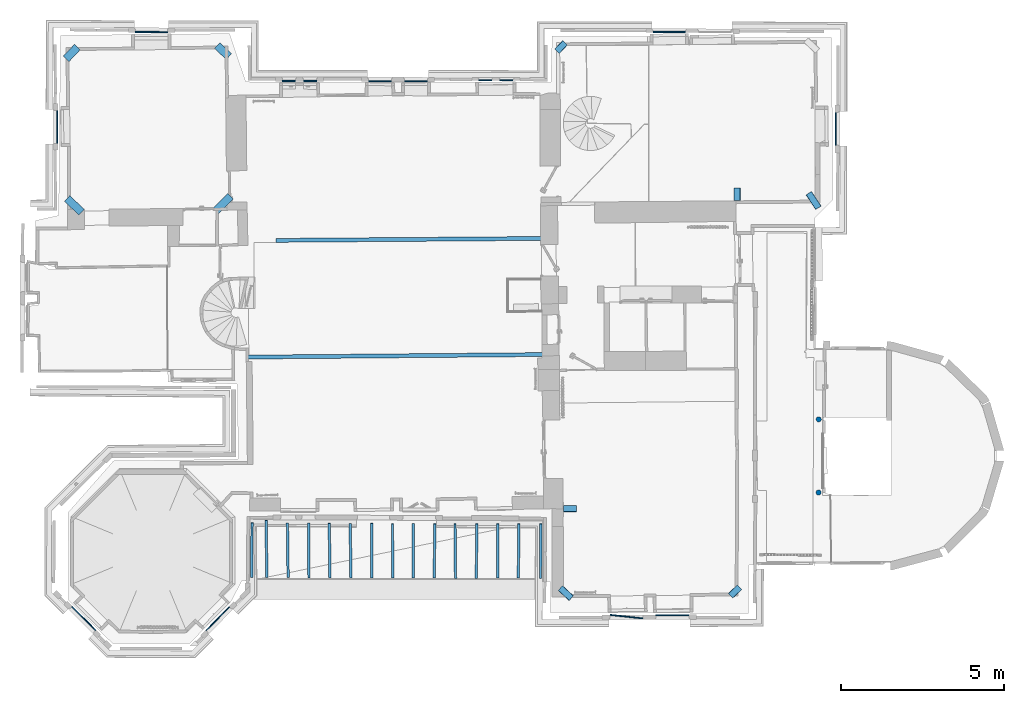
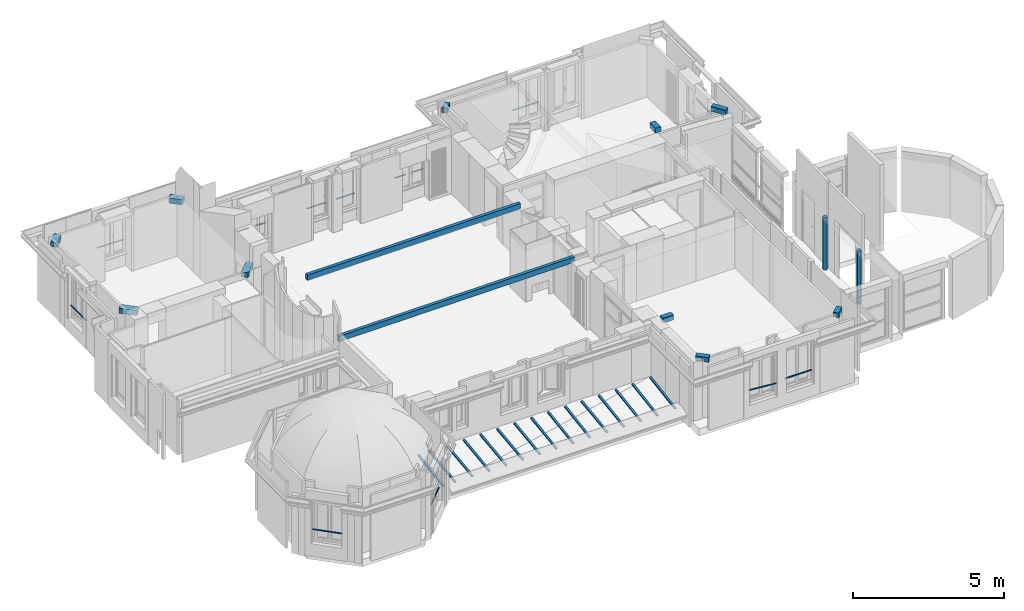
# One storey, part 1 of 72: 41 beams, 2 columns.
"""IFC2X3 building model written with IfcOpenShell, lengths in centimetres."""

from ifc_helpers import new_model, entity, si_unit, converted_unit, direction, frame, origin, origin_with_axes, origin_2d_with_axis, place, context, subcontext, project, spatial, rectangle, rounded_rectangle, hollow_rectangle, circle, extrude, source, transform, mapped, material, type_object, element, save


model = new_model("IFC2X3")

# Units and contexts
model_context = context("Model", 3, precision=0.0001, world=origin(), true_north=direction((0.225632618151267, 0.974212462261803, 0.0)))
body_context = subcontext(model_context, "Body", "Model", "MODEL_VIEW")
ifc_project = project(units=[si_unit("LENGTHUNIT", "METRE", prefix="CENTI"), si_unit("AREAUNIT", "SQUARE_METRE", prefix="CENTI"), si_unit("VOLUMEUNIT", "CUBIC_METRE", prefix="CENTI"), converted_unit("PLANEANGLEUNIT", "DEGREE", entity("IfcRatioMeasure", 0.0174532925), si_unit("PLANEANGLEUNIT", "RADIAN"), dimensions=[0, 0, 0, 0, 0, 0, 0])], contexts=[model_context])

# Site, building, storey
site_placement = place(None, origin_with_axes())
site = spatial("IfcSite", under=ifc_project, at=site_placement, Name="Default Site", CompositionType="ELEMENT")
building_placement = place(site_placement, origin_with_axes())
building = spatial("IfcBuilding", under=site, at=building_placement, Name="Default Building", CompositionType="ELEMENT")
storey_placement = place(building_placement, frame((0.0, 0.0, 853.910374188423), z_axis=(0.0, 0.0, 1.0), x_axis=(1.0, 0.0, 0.0)))
storey = spatial("IfcBuildingStorey", under=building, at=storey_placement, Name="Niveau 2", CompositionType="ELEMENT", Elevation=853.910374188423)

# Columns
ifc_material_1 = material(Name="Aluminium mat")
column_type = type_object("IfcColumnType", Name="RND 160", PredefinedType="USERDEFINED", material=ifc_material_1)
shared_shape_1 = source(origin_with_axes(), body_context, "Body", "SweptSolid", [
    extrude(circle(Radius=8.0, at=origin_2d_with_axis()), origin_with_axes(), (0.0, 0.0, 1.0), 100.0),
])
for number, where, z_axis, x_axis, name in (
    (1, (1085.75320516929, -436.363386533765, 0.0), (0.0, 0.0, 1.0), (1.0, 0.0, 0.0), "Poteau Acier 724689"),
    (2, (1085.40760481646, -660.547582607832, 0.0), (0.0, 0.0, 1.0), (1.0, 0.0, 0.0), "Poteau Acier 724686"),
):
    element("IfcColumn", number, at=place(storey_placement, frame(where, z_axis=z_axis, x_axis=x_axis)), inside=storey, type_object=column_type, material=ifc_material_1, Name=name, ObjectType="column", context=body_context, shape_type="MappedRepresentation", body=[
        mapped(shared_shape_1, transform((0.0, 0.0, 0.0), x_axis=(1.0, 0.0, 0.0), y_axis=(0.0, 1.0, 0.0), z_axis=(0.0, 0.0, 1.0), scale=1.0, scale2=1.0, scale3=2.15, uniform=False)),
    ])

# Beams
ifc_material_2 = material(Name="Chêne")
beam_type_1 = type_object("IfcBeamType", Name="120x220", PredefinedType="NOTDEFINED", material=ifc_material_2)
shared_shape_2 = source(origin_with_axes(), body_context, "Body", "SweptSolid", [
    extrude(rectangle(XDim=12.0, YDim=22.0, at=origin_2d_with_axis()), origin_with_axes(), (0.0, 0.0, 1.0), 100.0),
])
beam_1_placement = place(storey_placement, frame((-576.648953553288, 105.810697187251, 230.0), z_axis=(-0.999973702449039, -0.00725220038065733, 0.0), x_axis=(0.00725220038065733, -0.999973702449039, 0.0)))
element("IfcBeam", 3, at=beam_1_placement, inside=storey, type_object=beam_type_1, material=ifc_material_2, Name="Poutre 220051", ObjectType="beam", context=body_context, shape_type="MappedRepresentation", body=[
    mapped(shared_shape_2, transform((-5.99999999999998, -11.0000000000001, 0.0), x_axis=(1.0, 0.0, 0.0), y_axis=(0.0, 1.0, 0.0), z_axis=(-8.49796622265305e-19, 0.0, -1.0), scale=1.0, scale2=1.0, scale3=8.16535830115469, uniform=False)),
])
beam_2_placement = place(storey_placement, frame((-663.981124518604, -239.649524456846, 230.0), z_axis=(-0.99996306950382, -0.00859416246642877, -3.85185988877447e-34), x_axis=(0.00859416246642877, -0.99996306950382, -2.44929359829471e-16)))
element("IfcBeam", 4, at=beam_2_placement, inside=storey, type_object=beam_type_1, material=ifc_material_2, Name="Poutre 219733", ObjectType="beam", context=body_context, shape_type="MappedRepresentation", body=[
    mapped(shared_shape_2, transform((6.00000000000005, -10.9999999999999, 0.0), x_axis=(1.0, 0.0, 1.88686715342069e-49), y_axis=(0.0, 1.0, 0.0), z_axis=(1.53269434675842e-18, 4.48594781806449e-35, -1.0), scale=1.0, scale2=1.0, scale3=9.05450446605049, uniform=False)),
])
ifc_material_3 = material(Name="Eyong")
beam_type_2 = type_object("IfcBeamType", Name="240x200", PredefinedType="NOTDEFINED", material=ifc_material_3)
shared_shape_3 = source(origin_with_axes(), body_context, "Body", "SweptSolid", [
    extrude(rectangle(XDim=24.0, YDim=20.0, at=origin_2d_with_axis()), origin_with_axes(), (0.0, 0.0, 1.0), 100.0),
])
beam_3_placement = place(storey_placement, frame((-1163.59830165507, 206.882592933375, 247.0), z_axis=(0.728786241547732, -0.684741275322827, 0.0), x_axis=(0.684741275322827, 0.728786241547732, 0.0)))
element("IfcBeam", 5, at=beam_3_placement, inside=storey, type_object=beam_type_2, material=ifc_material_3, Name="Poutre 1739741", ObjectType="beam", context=body_context, shape_type="MappedRepresentation", body=[
    mapped(shared_shape_3, transform((-11.9999999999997, -9.99999999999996, 1.77635683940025e-13), x_axis=(1.0, 0.0, 0.0), y_axis=(0.0, 1.0, 0.0), z_axis=(0.0, 0.0, -1.0), scale=1.0, scale2=1.0, scale3=0.610344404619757, uniform=False)),
])
beam_4_placement = place(storey_placement, frame((-1210.40476845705, 659.450745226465, 247.0), z_axis=(-0.687102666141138, -0.726560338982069, 0.0), x_axis=(0.726560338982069, -0.687102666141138, -2.44929359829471e-16)))
element("IfcBeam", 6, at=beam_4_placement, inside=storey, type_object=beam_type_2, material=ifc_material_3, Name="Poutre 1734157", ObjectType="beam", context=body_context, shape_type="MappedRepresentation", body=[
    mapped(shared_shape_3, transform((-11.9999999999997, -9.99999999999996, 0.0), x_axis=(1.0, 0.0, 0.0), y_axis=(0.0, 1.0, 0.0), z_axis=(0.0, 0.0, -1.0), scale=1.0, scale2=1.0, scale3=0.495337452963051, uniform=False)),
])
beam_5_placement = place(storey_placement, frame((-768.83982251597, 211.43017748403, 247.0), z_axis=(-0.707106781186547, -0.707106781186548, 0.0), x_axis=(0.707106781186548, -0.707106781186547, 0.0)))
element("IfcBeam", 7, at=beam_5_placement, inside=storey, type_object=beam_type_2, material=ifc_material_3, Name="Poutre 1738207", ObjectType="beam", context=body_context, shape_type="MappedRepresentation", body=[
    mapped(shared_shape_3, transform((12.0000000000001, -9.99999999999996, 4.44089209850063e-14), x_axis=(1.0, 0.0, 0.0), y_axis=(0.0, 1.0, 0.0), z_axis=(0.0, 0.0, -1.0), scale=1.0, scale2=1.0, scale3=0.628049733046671, uniform=False)),
])
beam_6_placement = place(storey_placement, frame((-729.030952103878, 665.980952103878, 247.0), z_axis=(0.724298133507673, -0.689486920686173, 2.46519032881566e-32), x_axis=(0.689486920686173, 0.724298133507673, -2.44929359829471e-16)))
element("IfcBeam", 8, at=beam_6_placement, inside=storey, type_object=beam_type_2, material=ifc_material_3, Name="Poutre 1736344", ObjectType="beam", context=body_context, shape_type="MappedRepresentation", body=[
    mapped(shared_shape_3, transform((11.9999999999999, -9.99999999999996, 0.0), x_axis=(1.0, 0.0, -1.20759497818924e-47), y_axis=(0.0, 1.0, 0.0), z_axis=(6.03797489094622e-48, 2.55330471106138e-32, -1.0), scale=1.0, scale2=1.0, scale3=0.491221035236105, uniform=False)),
])
beam_type_3 = type_object("IfcBeamType", Name="7,5x5", PredefinedType="NOTDEFINED", material=ifc_material_1)
shared_shape_4 = source(origin_with_axes(), body_context, "Body", "SweptSolid", [
    extrude(hollow_rectangle(XDim=7.5, YDim=5.0, WallThickness=0.48, at=origin_2d_with_axis()), origin_with_axes(), (0.0, 0.0, 1.0), 100.0),
])
beam_7_placement = place(storey_placement, frame((-407.36, -921.84, 30.0000000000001), z_axis=(0.0132026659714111, -0.988897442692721, -0.148011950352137), x_axis=(0.999910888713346, 0.013349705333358, 0.0)))
element("IfcBeam", 9, at=beam_7_placement, inside=storey, type_object=beam_type_3, material=ifc_material_1, Name="Poutre en Acier 954592", ObjectType="beam", context=body_context, shape_type="MappedRepresentation", body=[
    mapped(shared_shape_4, transform((-3.75000000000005, -2.49999999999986, 0.0), x_axis=(1.0, 0.0, 0.0), y_axis=(-4.33680868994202e-19, 1.0, -2.77555756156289e-17), z_axis=(2.05407844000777e-18, -1.64326275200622e-17, -1.0), scale=1.0, scale2=1.0, scale3=1.68905280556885, uniform=False)),
])
beam_8_placement = place(storey_placement, frame((-471.64, -922.47, 30.0000000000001), z_axis=(0.00675832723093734, -0.989125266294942, -0.146920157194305), x_axis=(0.999976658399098, 0.00683247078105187, 0.0)))
element("IfcBeam", 10, at=beam_8_placement, inside=storey, type_object=beam_type_3, material=ifc_material_1, Name="Poutre en Acier 954589", ObjectType="beam", context=body_context, shape_type="MappedRepresentation", body=[
    mapped(shared_shape_4, transform((-3.74999999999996, -2.50000000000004, 8.88178419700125e-14), x_axis=(1.0, 0.0, 8.67361737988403e-19), y_axis=(0.0, 1.0, 0.0), z_axis=(-1.01946338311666e-18, 0.0, -1.0), scale=1.0, scale2=1.0, scale3=1.70160449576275, uniform=False)),
])
beam_9_placement = place(storey_placement, frame((-278.86, -921.74, 30.0000000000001), z_axis=(0.00611534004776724, -0.988903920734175, -0.148430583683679), x_axis=(0.999980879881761, 0.00618383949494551, -1.0842021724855e-19)))
element("IfcBeam", 11, at=beam_9_placement, inside=storey, type_object=beam_type_3, material=ifc_material_1, Name="Poutre en Acier 954598", ObjectType="beam", context=body_context, shape_type="MappedRepresentation", body=[
    mapped(shared_shape_4, transform((-3.74999999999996, -2.50000000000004, 0.0), x_axis=(1.0, 1.20098928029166e-21, 1.60928761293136e-20), y_axis=(1.20098928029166e-21, 1.0, 0.0), z_axis=(-1.60928761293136e-20, 1.64791051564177e-17, -1.0), scale=1.0, scale2=1.0, scale3=1.68428900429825, uniform=False)),
])
beam_10_placement = place(storey_placement, frame((-343.05, -921.89, 30.0000000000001), z_axis=(0.014956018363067, -0.988818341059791, -0.148373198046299), x_axis=(0.999885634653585, 0.0151234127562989, 4.33680868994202e-19)))
element("IfcBeam", 12, at=beam_10_placement, inside=storey, type_object=beam_type_3, material=ifc_material_1, Name="Poutre en Acier 954595", ObjectType="beam", context=body_context, shape_type="MappedRepresentation", body=[
    mapped(shared_shape_4, transform((-3.74999999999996, -2.50000000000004, -8.88178419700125e-14), x_axis=(1.0, -4.33680868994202e-19, 0.0), y_axis=(-4.80022248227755e-21, 1.0, -2.77555756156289e-17), z_axis=(6.43466174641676e-20, 0.0, -1.0), scale=1.0, scale2=1.0, scale3=1.68494042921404, uniform=False)),
])
beam_11_placement = place(storey_placement, frame((-535.55, -921.19, 30.0000000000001), z_axis=(0.0127643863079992, -0.988944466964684, -0.14773595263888), x_axis=(0.999916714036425, 0.0129060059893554, 0.0)))
element("IfcBeam", 13, at=beam_11_placement, inside=storey, type_object=beam_type_3, material=ifc_material_1, Name="Poutre en Acier 954586", ObjectType="beam", context=body_context, shape_type="MappedRepresentation", body=[
    mapped(shared_shape_4, transform((-3.74999999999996, -2.49999999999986, 0.0), x_axis=(1.0, -2.12081584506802e-19, 6.40702563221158e-20), y_axis=(2.1921985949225e-19, 1.0, -2.77555756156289e-17), z_axis=(-3.20351281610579e-20, 0.0, -1.0), scale=1.0, scale2=1.0, scale3=1.69220826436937, uniform=False)),
])
beam_12_placement = place(storey_placement, frame((-600.91, -920.36, 30.0000000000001), z_axis=(0.0106074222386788, -0.989836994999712, -0.141810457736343), x_axis=(0.999942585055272, 0.0107157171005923, -2.42237221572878e-16)))
element("IfcBeam", 14, at=beam_12_placement, inside=storey, type_object=beam_type_3, material=ifc_material_1, Name="Poutre en Acier 954583", ObjectType="beam", context=body_context, shape_type="MappedRepresentation", body=[
    mapped(shared_shape_4, transform((-3.74999999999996, -2.50000000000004, -8.88178419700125e-14), x_axis=(1.0, -5.83559987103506e-19, -2.8494953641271e-19), y_axis=(6.25784636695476e-20, 1.0, -2.77555756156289e-17), z_axis=(-8.91756996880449e-19, -1.57441235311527e-17, -1.0), scale=1.0, scale2=1.0, scale3=1.76291652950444, uniform=False)),
])
beam_13_placement = place(storey_placement, frame((162.16, -922.85, 30.0000000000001), z_axis=(-0.00711709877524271, -0.988920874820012, -0.148272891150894), x_axis=(0.999974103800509, -0.00719664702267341, 0.0)))
element("IfcBeam", 15, at=beam_13_placement, inside=storey, type_object=beam_type_3, material=ifc_material_1, Name="Poutre en Acier 954619", ObjectType="beam", context=body_context, shape_type="MappedRepresentation", body=[
    mapped(shared_shape_4, transform((3.74999999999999, -2.49999999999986, 8.88178419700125e-14), x_axis=(1.0, 2.16840434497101e-19, 1.73472347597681e-18), y_axis=(2.16840434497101e-19, 1.0, 0.0), z_axis=(-2.05769972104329e-18, -3.29231955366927e-17, -1.0), scale=1.0, scale2=1.0, scale3=1.68608029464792, uniform=False)),
])
beam_14_placement = place(storey_placement, frame((105.8, -922.99, 30.0000000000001), z_axis=(-0.00420904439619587, -0.988947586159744, -0.148205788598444), x_axis=(0.999990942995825, -0.00425604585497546, -2.42224493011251e-16)))
element("IfcBeam", 16, at=beam_14_placement, inside=storey, type_object=beam_type_3, material=ifc_material_1, Name="Poutre en Acier 954616", ObjectType="beam", context=body_context, shape_type="MappedRepresentation", body=[
    mapped(shared_shape_4, transform((-3.75000000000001, -2.49999999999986, 8.88178419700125e-14), x_axis=(1.0, -1.44081511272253e-19, 3.35206225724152e-19), y_axis=(-1.44081511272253e-19, 1.0, 0.0), z_axis=(9.64110227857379e-20, 0.0, -1.0), scale=1.0, scale2=1.0, scale3=1.68684369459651, uniform=False)),
])
beam_15_placement = place(storey_placement, frame((-646.95, -921.46, 30.0000000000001), z_axis=(-0.00518913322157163, -0.989060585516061, -0.147418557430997), x_axis=(0.999986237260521, -0.00524645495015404, 0.0)))
element("IfcBeam", 17, at=beam_15_placement, inside=storey, type_object=beam_type_3, material=ifc_material_1, Name="Poutre en Acier 954625", ObjectType="beam", context=body_context, shape_type="MappedRepresentation", body=[
    mapped(shared_shape_4, transform((-3.74999999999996, -2.50000000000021, 0.0), x_axis=(1.0, -1.07235639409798e-19, 1.59831520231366e-20), y_axis=(-1.07235639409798e-19, 1.0, 0.0), z_axis=(-1.59831520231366e-20, 0.0, -1.0), scale=1.0, scale2=1.0, scale3=1.69585162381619, uniform=False)),
])
beam_16_placement = place(storey_placement, frame((229.83, -923.46, 30.0000000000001), z_axis=(-0.00413328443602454, -0.989035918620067, -0.147617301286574), x_axis=(0.999991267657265, -0.00417906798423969, 1.0842021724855e-19)))
element("IfcBeam", 18, at=beam_16_placement, inside=storey, type_object=beam_type_3, material=ifc_material_1, Name="Poutre en Acier 954622", ObjectType="beam", context=body_context, shape_type="MappedRepresentation", body=[
    mapped(shared_shape_4, transform((3.75000000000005, 2.50000000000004, 8.88178419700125e-14), x_axis=(1.0, -1.09608008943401e-19, -1.60046998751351e-20), y_axis=(-2.37558338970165e-21, 1.0, 2.77555756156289e-17), z_axis=(-4.80140996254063e-19, 0.0, -1.0), scale=1.0, scale2=1.0, scale3=1.69356842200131, uniform=False)),
])
beam_17_placement = place(storey_placement, frame((41.13, -923.75, 30.0000000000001), z_axis=(-0.00414005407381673, -0.988999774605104, -0.147859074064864), x_axis=(0.999991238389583, -0.00418606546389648, 0.0)))
element("IfcBeam", 19, at=beam_17_placement, inside=storey, type_object=beam_type_3, material=ifc_material_1, Name="Poutre en Acier 954613", ObjectType="beam", context=body_context, shape_type="MappedRepresentation", body=[
    mapped(shared_shape_4, transform((-3.75, -2.50000000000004, 1.77635683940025e-13), x_axis=(1.0, 2.15648727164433e-19, -1.60309129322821e-20), y_axis=(1.0842021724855e-19, 1.0, 0.0), z_axis=(-5.12989213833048e-19, -1.64156548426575e-17, -1.0), scale=1.0, scale2=1.0, scale3=1.69079917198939, uniform=False)),
])
beam_18_placement = place(storey_placement, frame((-152.01, -922.73, 30.0000000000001), z_axis=(-0.00195346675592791, -0.988986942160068, -0.147989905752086), x_axis=(0.999998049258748, -0.00197521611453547, 0.0)))
element("IfcBeam", 20, at=beam_18_placement, inside=storey, type_object=beam_type_3, material=ifc_material_1, Name="Poutre en Acier 954604", ObjectType="beam", context=body_context, shape_type="MappedRepresentation", body=[
    mapped(shared_shape_4, transform((-3.74999999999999, -2.50000000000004, 0.0), x_axis=(1.0, -1.0842021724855e-19, -4.33680868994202e-19), y_axis=(-5.96914476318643e-22, 1.0, 0.0), z_axis=(8.02254886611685e-21, 3.28603601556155e-17, -1.0), scale=1.0, scale2=1.0, scale3=1.68930440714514, uniform=False)),
])
beam_19_placement = place(storey_placement, frame((-215.5, -922.14, 30.0000000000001), z_axis=(0.00262165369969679, -0.988840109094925, -0.148957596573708), x_axis=(0.999996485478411, 0.00265123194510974, 5.42101086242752e-20)))
element("IfcBeam", 21, at=beam_19_placement, inside=storey, type_object=beam_type_3, material=ifc_material_1, Name="Poutre en Acier 954601", ObjectType="beam", context=body_context, shape_type="MappedRepresentation", body=[
    mapped(shared_shape_4, transform((-3.75000000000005, -2.50000000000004, 8.88178419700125e-14), x_axis=(1.0, 5.36053181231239e-20, 4.2560586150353e-19), y_axis=(0.0, 1.0, -2.77555756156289e-17), z_axis=(-1.033600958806e-18, 4.96128460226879e-17, -1.0), scale=1.0, scale2=1.0, scale3=1.67832997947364, uniform=False)),
])
beam_20_placement = place(storey_placement, frame((-22.8000000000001, -923.9, 30.0000000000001), z_axis=(0.0101752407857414, -0.988950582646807, -0.147895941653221), x_axis=(0.999947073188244, 0.0102883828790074, 0.0)))
element("IfcBeam", 22, at=beam_20_placement, inside=storey, type_object=beam_type_3, material=ifc_material_1, Name="Poutre en Acier 954610", ObjectType="beam", context=body_context, shape_type="MappedRepresentation", body=[
    mapped(shared_shape_4, transform((-3.75, -2.49999999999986, 8.88178419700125e-14), x_axis=(1.0, 4.33680868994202e-19, 1.73472347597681e-18), y_axis=(-2.14455824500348e-19, 1.0, 0.0), z_axis=(2.02039867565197e-18, 0.0, -1.0), scale=1.0, scale2=1.0, scale3=1.69037768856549, uniform=False)),
])
beam_21_placement = place(storey_placement, frame((-87.6600000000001, -922.54, 30.0000000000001), z_axis=(-0.00546740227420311, -0.988886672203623, -0.148570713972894), x_axis=(0.999984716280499, -0.00552876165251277, 0.0)))
element("IfcBeam", 23, at=beam_21_placement, inside=storey, type_object=beam_type_3, material=ifc_material_1, Name="Poutre en Acier 954607", ObjectType="beam", context=body_context, shape_type="MappedRepresentation", body=[
    mapped(shared_shape_4, transform((-3.74999999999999, -2.50000000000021, -1.77635683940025e-13), x_axis=(1.0, 1.0842021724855e-19, 0.0), y_axis=(0.0, 1.0, -2.77555756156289e-17), z_axis=(0.0, 0.0, -1.0), scale=1.0, scale2=1.0, scale3=1.68270040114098, uniform=False)),
])
beam_type_4 = type_object("IfcBeamType", Name="RND 35", PredefinedType="NOTDEFINED", material=ifc_material_1)
shared_shape_5 = source(origin_with_axes(), body_context, "Body", "SweptSolid", [
    extrude(circle(Radius=1.75, at=origin_2d_with_axis()), origin_with_axes(), (0.0, 0.0, 1.0), 100.0),
])
beam_22_placement = place(storey_placement, frame((586.887853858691, -1034.89674996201, 100.375117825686), z_axis=(-0.999997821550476, -0.00208731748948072, 0.0), x_axis=(0.00208731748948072, -0.999997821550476, 0.0)))
element("IfcBeam", 24, at=beam_22_placement, inside=storey, type_object=beam_type_4, material=ifc_material_1, Name="Poutre en Acier 1549782", ObjectType="beam", context=body_context, shape_type="MappedRepresentation", body=[
    mapped(shared_shape_5, transform((1.74999999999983, -1.75000000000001, 0.0), x_axis=(1.0, 0.0, 4.33680868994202e-19), y_axis=(0.0, 1.0, 0.0), z_axis=(0.0, 0.0, -1.0), scale=1.0, scale2=1.0, scale3=1.0087066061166, uniform=False)),
])
beam_23_placement = place(storey_placement, frame((-1128.00814000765, -1080.54552503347, 102.550806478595), z_axis=(0.708665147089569, -0.705544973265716, 0.0), x_axis=(0.705544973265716, 0.708665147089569, 0.0)))
element("IfcBeam", 25, at=beam_23_placement, inside=storey, type_object=beam_type_4, material=ifc_material_1, Name="Poutre en Acier 1549147", ObjectType="beam", context=body_context, shape_type="MappedRepresentation", body=[
    mapped(shared_shape_5, transform((-1.74999999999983, -1.75000000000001, 0.0), x_axis=(1.0, 0.0, 0.0), y_axis=(0.0, 1.0, 0.0), z_axis=(1.09325096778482e-16, 0.0, -1.0), scale=1.0, scale2=1.0, scale3=1.01552439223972, uniform=False)),
])
beam_24_placement = place(storey_placement, frame((-1244.80688809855, 409.243597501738, 100.23141518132), z_axis=(-0.000909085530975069, -0.999999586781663, 0.0), x_axis=(0.999999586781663, -0.000909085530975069, 0.0)))
element("IfcBeam", 26, at=beam_24_placement, inside=storey, type_object=beam_type_4, material=ifc_material_1, Name="Poutre en Acier 1549063", ObjectType="beam", context=body_context, shape_type="MappedRepresentation", body=[
    mapped(shared_shape_5, transform((-1.74999999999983, -1.75000000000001, -8.88178419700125e-14), x_axis=(1.0, 0.0, 0.0), y_axis=(0.0, 1.0, 0.0), z_axis=(0.0, 0.0, -1.0), scale=1.0, scale2=1.0, scale3=0.996883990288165, uniform=False)),
])
beam_25_placement = place(storey_placement, frame((547.040987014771, -1045.97997665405, 99.1512132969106), z_axis=(0.994260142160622, -0.106989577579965, 0.0), x_axis=(0.106989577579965, 0.994260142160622, 0.0)))
element("IfcBeam", 27, at=beam_25_placement, inside=storey, type_object=beam_type_4, material=ifc_material_1, Name="Poutre en Acier 1549668", ObjectType="beam", context=body_context, shape_type="MappedRepresentation", body=[
    mapped(shared_shape_5, transform((0.0, 0.0, 0.0), x_axis=(1.0, 0.0, 0.0), y_axis=(0.0, 1.0, 0.0), z_axis=(0.0, 0.0, -1.0), scale=1.0, scale2=1.0, scale3=1.00857763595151, uniform=False)),
])
beam_26_placement = place(storey_placement, frame((-791.816213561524, -1081.98285215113, 103.39729224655), z_axis=(-0.700312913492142, -0.713835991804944, 0.0), x_axis=(0.713835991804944, -0.700312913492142, -2.44929359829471e-16)))
element("IfcBeam", 28, at=beam_26_placement, inside=storey, type_object=beam_type_4, material=ifc_material_1, Name="Poutre en Acier 1549422", ObjectType="beam", context=body_context, shape_type="MappedRepresentation", body=[
    mapped(shared_shape_5, transform((1.74999999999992, -1.75000000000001, 0.0), x_axis=(1.0, 0.0, 0.0), y_axis=(0.0, 1.0, 0.0), z_axis=(0.0, -2.43876103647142e-32, -1.0), scale=1.0, scale2=1.0, scale3=1.01083718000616, uniform=False)),
])
beam_27_placement = place(storey_placement, frame((-452.316149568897, 598.190209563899, 101.75), z_axis=(0.999997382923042, -0.00228782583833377, 0.0), x_axis=(0.00228782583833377, 0.999997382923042, -2.44929359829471e-16)))
element("IfcBeam", 29, at=beam_27_placement, inside=storey, type_object=beam_type_4, material=ifc_material_1, Name="Poutre en Acier 1548878", ObjectType="beam", context=body_context, shape_type="MappedRepresentation", body=[
    mapped(shared_shape_5, transform((1.7500000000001, -1.75000000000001, 0.0), x_axis=(1.0, 0.0, 0.0), y_axis=(0.0, 1.0, 0.0), z_axis=(0.0, 1.21588241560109e-34, -1.0), scale=1.0, scale2=1.0, scale3=0.395994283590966, uniform=False)),
])
beam_28_placement = place(storey_placement, frame((-223.377567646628, 597.666436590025, 102.0), z_axis=(0.999997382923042, -0.00228782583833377, 0.0), x_axis=(0.00228782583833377, 0.999997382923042, -2.44929359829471e-16)))
element("IfcBeam", 30, at=beam_28_placement, inside=storey, type_object=beam_type_4, material=ifc_material_1, Name="Poutre en Acier 1548819", ObjectType="beam", context=body_context, shape_type="MappedRepresentation", body=[
    mapped(shared_shape_5, transform((1.7500000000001, -1.75000000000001, 0.0), x_axis=(1.0, 0.0, 0.0), y_axis=(0.0, 1.0, 0.0), z_axis=(-3.1242568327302e-19, -6.93724374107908e-35, -1.0), scale=1.0, scale2=1.0, scale3=0.694054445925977, uniform=False)),
])
beam_29_placement = place(storey_placement, frame((-908.232509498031, 747.922141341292, 101.75), z_axis=(0.999982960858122, -0.00583763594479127, 0.0), x_axis=(0.00583763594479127, 0.999982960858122, -2.44929359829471e-16)))
element("IfcBeam", 31, at=beam_29_placement, inside=storey, type_object=beam_type_4, material=ifc_material_1, Name="Poutre en Acier 1548960", ObjectType="beam", context=body_context, shape_type="MappedRepresentation", body=[
    mapped(shared_shape_5, transform((1.75000000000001, -1.75000000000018, 1.77635683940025e-13), x_axis=(1.0, 0.0, 0.0), y_axis=(0.0, 1.0, 0.0), z_axis=(8.74335606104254e-19, 0.0, -1.0), scale=1.0, scale2=1.0, scale3=0.992023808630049, uniform=False)),
])
beam_30_placement = place(storey_placement, frame((-517.007919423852, 598.338213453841, 101.75), z_axis=(0.999997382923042, -0.00228782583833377, 0.0), x_axis=(0.00228782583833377, 0.999997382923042, -2.44929359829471e-16)))
element("IfcBeam", 32, at=beam_30_placement, inside=storey, type_object=beam_type_4, material=ifc_material_1, Name="Poutre en Acier 1548919", ObjectType="beam", context=body_context, shape_type="MappedRepresentation", body=[
    mapped(shared_shape_5, transform((1.75000000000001, -1.75000000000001, -8.88178419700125e-14), x_axis=(1.0, 0.0, 0.0), y_axis=(0.0, 1.0, 0.0), z_axis=(0.0, 1.21588241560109e-34, -1.0), scale=1.0, scale2=1.0, scale3=0.395994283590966, uniform=False)),
])
beam_31_placement = place(storey_placement, frame((-113.050251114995, 597.414026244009, 102.0), z_axis=(0.999997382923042, -0.00228782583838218, 0.0), x_axis=(0.00228782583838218, 0.999997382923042, 0.0)))
element("IfcBeam", 33, at=beam_31_placement, inside=storey, type_object=beam_type_4, material=ifc_material_1, Name="Poutre en Acier 1548760", ObjectType="beam", context=body_context, shape_type="MappedRepresentation", body=[
    mapped(shared_shape_5, transform((1.75000000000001, -1.75000000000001, -4.44089209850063e-14), x_axis=(1.0, 0.0, 0.0), y_axis=(0.0, 1.0, 0.0), z_axis=(0.0, 0.0, -1.0), scale=1.0, scale2=1.0, scale3=0.6939017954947, uniform=False)),
])
beam_32_placement = place(storey_placement, frame((1135.68595396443, 403.32916272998, 101.75), z_axis=(-0.00334694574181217, -0.999994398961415, 9.62964972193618e-35), x_axis=(0.999994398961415, -0.00334694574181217, -2.44929359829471e-16)))
element("IfcBeam", 34, at=beam_32_placement, inside=storey, type_object=beam_type_4, material=ifc_material_1, Name="Poutre en Acier 1548119", ObjectType="beam", context=body_context, shape_type="MappedRepresentation", body=[
    mapped(shared_shape_5, transform((1.75000000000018, -1.75000000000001, -8.88178419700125e-14), x_axis=(1.0, 0.0, -4.71716788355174e-50), y_axis=(0.0, 1.0, 0.0), z_axis=(2.35858394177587e-50, 9.67447120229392e-35, -1.0), scale=1.0, scale2=1.0, scale3=0.997678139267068, uniform=False)),
])
beam_33_placement = place(storey_placement, frame((677.178027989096, 748.167769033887, 102.0), z_axis=(0.999996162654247, -0.00277032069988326, 0.0), x_axis=(0.00277032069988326, 0.999996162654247, -2.44929359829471e-16)))
element("IfcBeam", 35, at=beam_33_placement, inside=storey, type_object=beam_type_4, material=ifc_material_1, Name="Poutre en Acier 1548640", ObjectType="beam", context=body_context, shape_type="MappedRepresentation", body=[
    mapped(shared_shape_5, transform((1.75000000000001, -1.75000000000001, 8.88178419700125e-14), x_axis=(1.0, 0.0, 0.0), y_axis=(0.0, 1.0, 0.0), z_axis=(0.0, 0.0, -1.0), scale=1.0, scale2=1.0, scale3=0.988095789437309, uniform=False)),
])
beam_34_placement = place(storey_placement, frame((149.197276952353, 600.814058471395, 102.0), z_axis=(0.999997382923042, -0.00228782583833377, 0.0), x_axis=(0.00228782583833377, 0.999997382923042, 0.0)))
element("IfcBeam", 36, at=beam_34_placement, inside=storey, type_object=beam_type_4, material=ifc_material_1, Name="Poutre en Acier 2055925", ObjectType="beam", context=body_context, shape_type="MappedRepresentation", body=[
    mapped(shared_shape_5, transform((1.7500000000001, 1.75000000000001, 0.0), x_axis=(1.0, 0.0, 0.0), y_axis=(0.0, 1.0, 0.0), z_axis=(0.0, 0.0, -1.0), scale=1.0, scale2=1.0, scale3=0.397775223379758, uniform=False)),
])
beam_35_placement = place(storey_placement, frame((84.5703516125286, 600.961914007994, 102.0), z_axis=(0.999997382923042, -0.00228782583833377, 0.0), x_axis=(0.00228782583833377, 0.999997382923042, -2.44929359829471e-16)))
element("IfcBeam", 37, at=beam_35_placement, inside=storey, type_object=beam_type_4, material=ifc_material_1, Name="Poutre en Acier 2055808", ObjectType="beam", context=body_context, shape_type="MappedRepresentation", body=[
    mapped(shared_shape_5, transform((1.75000000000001, 1.75000000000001, 0.0), x_axis=(1.0, 0.0, 0.0), y_axis=(0.0, 1.0, 0.0), z_axis=(0.0, 0.0, -1.0), scale=1.0, scale2=1.0, scale3=0.39795840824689, uniform=False)),
])
beam_type_5 = type_object("IfcBeamType", Name="200,00x200,00x10,00", PredefinedType="NOTDEFINED", material=ifc_material_3)
shared_shape_6 = source(origin_with_axes(), body_context, "Body", "SweptSolid", [
    extrude(rounded_rectangle(XDim=20.0, YDim=20.0, RoundingRadius=1.0, at=origin_2d_with_axis()), origin_with_axes(), (0.0, 0.0, 1.0), 100.0),
])
beam_36_placement = place(storey_placement, frame((303.535803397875, -699.65, 247.0), z_axis=(-1.0, 0.0, 0.0), x_axis=(0.0, -1.0, 0.0)))
element("IfcBeam", 38, at=beam_36_placement, inside=storey, type_object=beam_type_5, material=ifc_material_3, Name="Poutre 1741656", ObjectType="beam", context=body_context, shape_type="MappedRepresentation", body=[
    mapped(shared_shape_6, transform((9.99999999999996, -8.99999999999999, 4.44089209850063e-14), x_axis=(1.0, 0.0, 0.0), y_axis=(0.0, 1.0, 0.0), z_axis=(0.0, 0.0, -1.0), scale=1.0, scale2=1.0, scale3=0.40404196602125, uniform=False)),
])
beam_37_placement = place(storey_placement, frame((291.73279675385, 684.318782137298, 247.0), z_axis=(-0.684874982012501, -0.728660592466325, 0.0), x_axis=(0.728660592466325, -0.684874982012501, -2.44929359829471e-16)))
element("IfcBeam", 39, at=beam_37_placement, inside=storey, type_object=beam_type_5, material=ifc_material_3, Name="Poutre 1740831", ObjectType="beam", context=body_context, shape_type="MappedRepresentation", body=[
    mapped(shared_shape_6, transform((-10.0000000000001, -8.99999999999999, 8.88178419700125e-14), x_axis=(1.0, 0.0, 0.0), y_axis=(0.0, 1.0, 0.0), z_axis=(7.82035644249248e-17, 0.0, -1.0), scale=1.0, scale2=1.0, scale3=0.354914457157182, uniform=False)),
])
beam_38_placement = place(storey_placement, frame((334.734398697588, -976.738609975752, 247.0), z_axis=(0.734104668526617, -0.67903632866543, 0.0), x_axis=(0.67903632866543, 0.734104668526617, 0.0)))
element("IfcBeam", 40, at=beam_38_placement, inside=storey, type_object=beam_type_5, material=ifc_material_3, Name="Poutre 1741368", ObjectType="beam", context=body_context, shape_type="MappedRepresentation", body=[
    mapped(shared_shape_6, transform((-10.0000000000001, -9.00000000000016, 1.77635683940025e-13), x_axis=(1.0, 0.0, 0.0), y_axis=(0.0, 1.0, 0.0), z_axis=(-6.09548641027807e-17, 0.0, -1.0), scale=1.0, scale2=1.0, scale3=0.455346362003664, uniform=False)),
])
beam_39_placement = place(storey_placement, frame((809.02, -969.22, 247.0), z_axis=(-0.728811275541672, -0.684714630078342, 0.0), x_axis=(0.684714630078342, -0.728811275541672, -2.44929359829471e-16)))
element("IfcBeam", 41, at=beam_39_placement, inside=storey, type_object=beam_type_5, material=ifc_material_3, Name="Poutre 1741092", ObjectType="beam", context=body_context, shape_type="MappedRepresentation", body=[
    mapped(shared_shape_6, transform((9.99999999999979, -8.99999999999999, 0.0), x_axis=(1.0, 0.0, 0.0), y_axis=(0.0, 1.0, 0.0), z_axis=(0.0, 0.0, -1.0), scale=1.0, scale2=1.0, scale3=0.374839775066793, uniform=False)),
])
beam_40_placement = place(storey_placement, frame((1092.35, 216.53, 255.0), z_axis=(0.550030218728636, -0.83514475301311, 0.0), x_axis=(0.83514475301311, 0.550030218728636, 0.0)))
element("IfcBeam", 42, at=beam_40_placement, inside=storey, type_object=beam_type_5, material=ifc_material_3, Name="Poutre 1720691", ObjectType="beam", context=body_context, shape_type="MappedRepresentation", body=[
    mapped(shared_shape_6, transform((-9.00000000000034, -10.0000000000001, -8.88178419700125e-14), x_axis=(1.0, 0.0, 0.0), y_axis=(0.0, 1.0, 0.0), z_axis=(0.0, 0.0, -1.0), scale=1.0, scale2=1.0, scale3=0.538110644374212, uniform=False)),
])
beam_41_placement = place(storey_placement, frame((826.88000793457, 233.498926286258, 254.0), z_axis=(-6.12323399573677e-17, -1.0, 0.0), x_axis=(1.0, -6.12323399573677e-17, 0.0)))
element("IfcBeam", 43, at=beam_41_placement, inside=storey, type_object=beam_type_5, material=ifc_material_3, Name="Poutre 1719965", ObjectType="beam", context=body_context, shape_type="MappedRepresentation", body=[
    mapped(shared_shape_6, transform((8.99999999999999, -9.99999999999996, 0.0), x_axis=(1.0, 0.0, 0.0), y_axis=(0.0, 1.0, 0.0), z_axis=(0.0, 0.0, -1.0), scale=1.0, scale2=1.0, scale3=0.388210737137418, uniform=False)),
])

save(model, "model.ifc")
